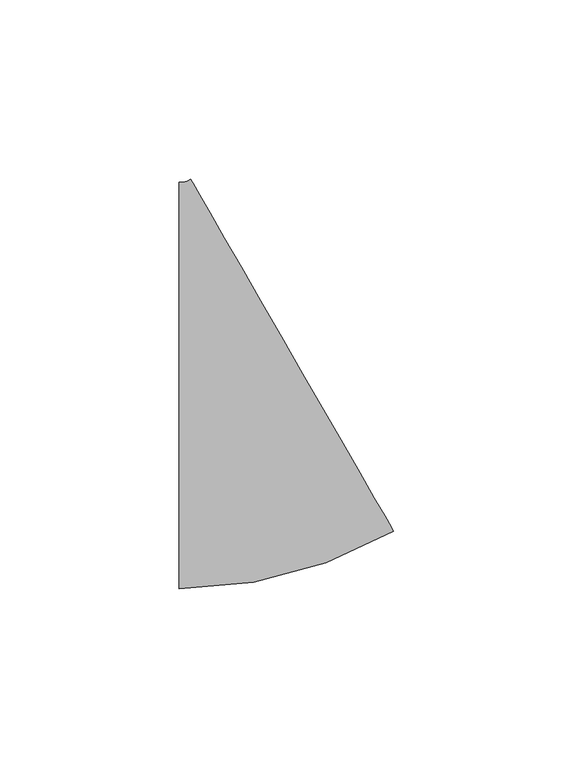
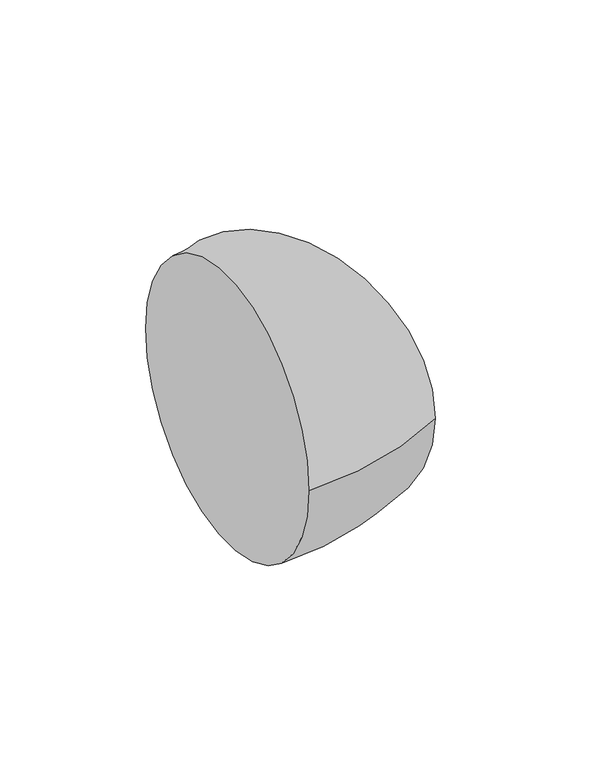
"""IFC4 building model written with IfcOpenShell, lengths in millimetres: pipe fitting geometry, M_Codo - Genérico : Estándar."""

import ifcopenshell
import ifcopenshell.guid

model = None  # the IFC model being written
_history = None  # IfcOwnerHistory: only IFC2X3 demands one
_inside = {}  # id of a spatial element -> (the spatial element, [elements in it])
_under = {}  # id of a project, library or spatial element -> (it, [spatial elements below it])
_declared = {}  # id of a project -> (the project, [libraries it declares])
_typed = {}  # id of a type object -> (the type object, [elements of that type])
_made_of = {}  # id of a material, layer set ... -> (it, [elements and type objects made of it])


def new_model(schema):
    """Start an empty IFC model of exactly this schema.

    Asked for "IFC4X3", IfcOpenShell would pick the latest addendum, in which some entities
    have other attributes; the version numbers below select the first issue.
    IFC2X3 requires an IfcOwnerHistory on every rooted entity: one is made here for all.
    """
    global model, _history
    if schema == "IFC4X3":
        model = ifcopenshell.file(schema_version=(4, 3, 0, 0))
    else:
        model = ifcopenshell.file(schema=schema)
    _inside.clear()
    _under.clear()
    _declared.clear()
    _typed.clear()
    _made_of.clear()
    _history = None
    if model.schema == "IFC2X3":
        org = make("IfcOrganization", Name="unknown")
        user = make(
            "IfcPersonAndOrganization",
            ThePerson=make("IfcPerson", FamilyName="unknown"),
            TheOrganization=org,
        )
        app = make(
            "IfcApplication",
            ApplicationDeveloper=org,
            Version="unknown",
            ApplicationFullName="unknown",
            ApplicationIdentifier="unknown",
        )
        _history = make(
            "IfcOwnerHistory",
            OwningUser=user,
            OwningApplication=app,
            ChangeAction="ADDED",
            CreationDate=0,
        )
    return model


def make(cls, **values):
    """One entity of the class cls with the attributes given. An attribute that is None is left unset."""
    return model.create_entity(
        cls, **{name: value for name, value in values.items() if value is not None}
    )


def rooted(cls, **values):
    """An entity with a GlobalId (a new one), such as an element, a storey or a relation."""
    return make(cls, GlobalId=ifcopenshell.guid.new(), OwnerHistory=_history, **values)


def si_unit(unit_type, name, prefix=None):
    """IfcSIUnit, for example si_unit("LENGTHUNIT", "METRE", prefix="MILLI")."""
    return make("IfcSIUnit", UnitType=unit_type, Prefix=prefix, Name=name)


def assignment(units):
    """IfcUnitAssignment: the units of a project."""
    return None if units is None else make("IfcUnitAssignment", Units=units)


def point(xyz):
    """IfcCartesianPoint."""
    return None if xyz is None else make("IfcCartesianPoint", Coordinates=xyz)


def direction(xyz):
    """IfcDirection."""
    return None if xyz is None else make("IfcDirection", DirectionRatios=xyz)


def frame(location, z_axis=None, x_axis=None):
    """IfcAxis2Placement3D, a coordinate frame: its origin and axes. An axis left out is left unset."""
    return make(
        "IfcAxis2Placement3D",
        Location=point(location),
        Axis=direction(z_axis),
        RefDirection=direction(x_axis),
    )


def origin():
    """The frame at (0, 0, 0) with its axes left unset."""
    return frame((0.0, 0.0, 0.0))


def place(relative_to, where):
    """IfcLocalPlacement: puts the frame where relative to a parent placement (None: the world)."""
    return make(
        "IfcLocalPlacement", PlacementRelTo=relative_to, RelativePlacement=where
    )


def context(
    kind, dimensions, precision=None, world=None, true_north=None, identifier=None
):
    """IfcGeometricRepresentationContext, for example the 3D "Model" context."""
    return make(
        "IfcGeometricRepresentationContext",
        ContextIdentifier=identifier,
        ContextType=kind,
        CoordinateSpaceDimension=dimensions,
        Precision=precision,
        WorldCoordinateSystem=world,
        TrueNorth=true_north,
    )


def project(units=None, contexts=None):
    """IfcProject with its units and contexts."""
    return rooted(
        "IfcProject",
        Name="project",
        RepresentationContexts=contexts,
        UnitsInContext=assignment(units),
    )


def spatial(cls, under=None, at=None, **own):
    """A site, building, storey or space (cls), placed at a placement, below another one or the project."""
    s = rooted(cls, ObjectPlacement=at, **own)
    if under is not None:
        _under.setdefault(under.id(), (under, []))[1].append(s)
    return s


def circle_curve(where, radius):
    """IfcCircle in the frame where."""
    return make("IfcCircle", Position=where, Radius=radius)


def ellipse_curve(where, semi_axis1, semi_axis2):
    """IfcEllipse in the frame where."""
    return make(
        "IfcEllipse", Position=where, SemiAxis1=semi_axis1, SemiAxis2=semi_axis2
    )


def trimmed(basis, trim1, trim2, sense, master):
    """IfcTrimmedCurve: the piece of a basis curve between two trims."""
    return make(
        "IfcTrimmedCurve",
        BasisCurve=basis,
        Trim1=trim1,
        Trim2=trim2,
        SenseAgreement=sense,
        MasterRepresentation=master,
    )


def shape(context_of_items, identifier, shape_type, items):
    """IfcShapeRepresentation: the items that make up one representation, for example the "Body"."""
    return make(
        "IfcShapeRepresentation",
        ContextOfItems=context_of_items,
        RepresentationIdentifier=identifier,
        RepresentationType=shape_type,
        Items=items,
    )


def source(mapping_origin, context_of_items, identifier, shape_type, items):
    """IfcRepresentationMap: a shape defined once, which mapped items show again and again."""
    return make(
        "IfcRepresentationMap",
        MappingOrigin=mapping_origin,
        MappedRepresentation=shape(context_of_items, identifier, shape_type, items),
    )


def transform(
    local_origin,
    x_axis=None,
    y_axis=None,
    z_axis=None,
    scale=None,
    scale2=None,
    scale3=None,
    uniform=True,
):
    """IfcCartesianTransformationOperator3D, or its non-uniform kind. x_axis, y_axis, z_axis: its Axis1, 2, 3."""
    if uniform:
        return make(
            "IfcCartesianTransformationOperator3D",
            Axis1=direction(x_axis),
            Axis2=direction(y_axis),
            LocalOrigin=point(local_origin),
            Scale=scale,
            Axis3=direction(z_axis),
        )
    return make(
        "IfcCartesianTransformationOperator3DnonUniform",
        Axis1=direction(x_axis),
        Axis2=direction(y_axis),
        LocalOrigin=point(local_origin),
        Scale=scale,
        Axis3=direction(z_axis),
        Scale2=scale2,
        Scale3=scale3,
    )


def mapped(mapping_source, mapping_target):
    """IfcMappedItem: shows the shape of a source again, moved by a transform."""
    return make(
        "IfcMappedItem", MappingSource=mapping_source, MappingTarget=mapping_target
    )


def made_of(thing, what):
    """Note that an element or type object is made of a material, layer set ...; save() writes the relation."""
    if what is not None:
        _made_of.setdefault(what.id(), (what, []))[1].append(thing)
    return thing


def element(
    cls,
    number,
    at=None,
    inside=None,
    cuts=None,
    type_object=None,
    material=None,
    context=None,
    identifier="Body",
    shape_type=None,
    held_by="IfcProductDefinitionShape",
    body=None,
    shapes=None,
    **own,
):
    """One element of the class cls, such as IfcWall. Its Tag is "e" and its number.

    at: its placement. inside: the storey or other place that contains it. cuts: it is an
    opening in that element (IfcRelVoidsElement). A single representation is given by context,
    identifier, shape_type and body (its items); several are given by shapes. held_by: the class
    of the entity that holds the representations. save() writes the other relations.
    """
    e = rooted(cls, Tag="e%d" % number, ObjectPlacement=at, **own)
    if body is not None:
        shapes = [shape(context, identifier, shape_type, body)]
    if shapes is not None:
        e.Representation = make(held_by, Representations=shapes)
    if inside is not None:
        _inside.setdefault(inside.id(), (inside, []))[1].append(e)
    if cuts is not None:
        rooted(
            "IfcRelVoidsElement", RelatingBuildingElement=cuts, RelatedOpeningElement=e
        )
    if type_object is not None:
        _typed.setdefault(type_object.id(), (type_object, []))[1].append(e)
    return made_of(e, material)


def aggregate(whole, parts):
    """IfcRelAggregates: a whole, such as a stair, and the parts it consists of."""
    return rooted("IfcRelAggregates", RelatingObject=whole, RelatedObjects=parts)


def save(model, path):
    """Write the relations noted so far, then the file.

    IfcRelAggregates (storeys below a building ...), IfcRelContainedInSpatialStructure (elements
    in a storey), IfcRelDefinesByType, IfcRelAssociatesMaterial and IfcRelDeclares: one each for
    every whole, place, type object, material and project.
    """
    for whole, parts in _under.values():
        aggregate(whole, parts)
    for where, things in _inside.values():
        rooted(
            "IfcRelContainedInSpatialStructure",
            RelatedElements=things,
            RelatingStructure=where,
        )
    for kind, things in _typed.values():
        rooted("IfcRelDefinesByType", RelatedObjects=things, RelatingType=kind)
    for what, things in _made_of.values():
        rooted("IfcRelAssociatesMaterial", RelatedObjects=things, RelatingMaterial=what)
    for by, libraries in _declared.values():
        rooted("IfcRelDeclares", RelatingContext=by, RelatedDefinitions=libraries)
    model.write(path)


def plane_surface(at):
    """IfcPlane: the flat surface through the origin of the frame at, square to its z axis."""
    return make("IfcPlane", Position=at)


def revolved_surface(curve, axis_point, axis_direction):
    """IfcSurfaceOfRevolution: the curve turned about the line through axis_point along axis_direction."""
    return make(
        "IfcSurfaceOfRevolution",
        SweptCurve=make("IfcArbitraryOpenProfileDef", ProfileType="CURVE", Curve=curve),
        AxisPosition=make("IfcAxis1Placement", Location=point(axis_point), Axis=direction(axis_direction)),
    )


def advanced_brep(points, edges, surfaces, faces):
    """IfcAdvancedBrep: a solid bounded by faces that lie on surfaces and meet in shared edges.

    An edge is (start, end): straight between two places in points (the first is 0);
    or (start, end, curve); or (start, end, curve, False) where it runs against its curve.
    A face is (place in surfaces, loops), or (place, loops, False) where it looks against
    its surface's normal. A loop lists edges by number (the first is 1), with a minus sign
    where the edge is run from its end to its start. The first loop is the outer one.
    """
    corners = [point(p) for p in points]
    vertices = [make("IfcVertexPoint", VertexGeometry=c) for c in corners]
    made = []
    for start, end, *more in edges:
        made.append(
            make(
                "IfcEdgeCurve",
                EdgeStart=vertices[start],
                EdgeEnd=vertices[end],
                EdgeGeometry=more[0] if more else make("IfcPolyline", Points=[corners[start], corners[end]]),
                SameSense=more[1] if len(more) > 1 else True,
            )
        )
    hull = []
    for where, loops, *sense in faces:
        bounds = []
        for j, loop in enumerate(loops):
            ring = [make("IfcOrientedEdge", EdgeElement=made[abs(k) - 1], Orientation=k > 0) for k in loop]
            bounds.append(
                make(
                    "IfcFaceOuterBound" if j == 0 else "IfcFaceBound",
                    Bound=make("IfcEdgeLoop", EdgeList=ring),
                    Orientation=True,
                )
            )
        hull.append(make("IfcAdvancedFace", Bounds=bounds, FaceSurface=surfaces[where], SameSense=sense[0] if sense else True))
    return make("IfcAdvancedBrep", Outer=make("IfcClosedShell", CfsFaces=hull))


def pipe_fitting_a384b232(model_context):
    return source(origin(), model_context, "Body", "AdvancedBrep", [
        advanced_brep(
        [(-16.8640523, -56.5875, 0.0), (-16.8640523, 56.5875, 0.0), (42.8984477, -40.5741864, 0.0), (-13.6890523, 57.4382387, 0.0)],
        [
            (0, 1, circle_curve(frame((-16.8640523, 0.0, 0.0), z_axis=(-1.0, 0.0, 0.0), x_axis=(0.0, 1.0, 0.0)), 56.5875)),
            (1, 0, circle_curve(frame((-16.8640523, 0.0, 0.0), z_axis=(-1.0, 0.0, 0.0), x_axis=(0.0, 1.0, 0.0)), 56.5875)),
            (2, 3, circle_curve(frame((14.6046977, 8.4320261, 0.0), z_axis=(0.8660254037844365, 0.5000000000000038, 0.0), x_axis=(-0.5000000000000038, 0.8660254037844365, 0.0)), 56.5875)),
            (3, 2, circle_curve(frame((14.6046977, 8.4320261, 0.0), z_axis=(0.8660254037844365, 0.5000000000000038, 0.0), x_axis=(-0.5000000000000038, 0.8660254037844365, 0.0)), 56.5875)),
            (3, 1, circle_curve(frame((-16.8640523, 62.9375, 0.0), z_axis=(0.0, 0.0, -1.0), x_axis=(0.0, -1.0, 0.0)), 6.35)),
            (0, 2, circle_curve(frame((-16.8640523, 62.9375, 0.0), z_axis=(0.0, 0.0, 1.0), x_axis=(0.0, -1.0, 0.0)), 119.525)),
        ],
        [
            plane_surface(frame((-16.8640523, 0.0, 0.0), z_axis=(-1.0, 0.0, 0.0), x_axis=(0.0, 0.0, 1.0))),
            plane_surface(frame((14.6046977, 8.4320261, 0.0), z_axis=(0.8660254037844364, 0.500000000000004, 0.0), x_axis=(0.0, 0.0, 1.0))),
            revolved_surface(trimmed(ellipse_curve(frame((-16.8640523, 0.0, 0.0), z_axis=(-1.0, 0.0, 0.0), x_axis=(0.0, 1.0, 0.0)), 56.5875, 56.5875), [point((-16.8640523, -56.5875, 0.0))], [point((-16.8640523, 56.5875, 0.0))], True, "CARTESIAN"), (-16.8640523, 62.9375, 0.0), (0.0, 0.0, 1.0)),
            revolved_surface(trimmed(ellipse_curve(frame((-16.8640523, 0.0, 0.0), z_axis=(-1.0, 0.0, 0.0), x_axis=(0.0, 1.0, 0.0)), 56.5875, 56.5875), [point((-16.8640523, 56.5875, 0.0))], [point((-16.8640523, -56.5875, 0.0))], True, "CARTESIAN"), (-16.8640523, 62.9375, 0.0), (0.0, 0.0, 1.0)),
        ],
        [
            (0, [[1, 2]]),
            (1, [[3, 4]]),
            (2, [[5, -1, 6, -4]]),
            (3, [[-6, -2, -5, -3]]),
        ],
    ),
    ])


if __name__ == "__main__":
    model = new_model("IFC4")
    model_context = context("Model", 3, world=origin())
    ifc_project = project(units=[si_unit("LENGTHUNIT", "METRE", prefix="MILLI")], contexts=[model_context])
    site = spatial("IfcSite", under=ifc_project)
    building = spatial("IfcBuilding", under=site)
    placement = place(None, origin())
    pipe_fitting_shape = pipe_fitting_a384b232(model_context)
    element("IfcPipeFitting", 1, ObjectType="M_Codo - Genérico : Estándar", at=placement, inside=building, context=model_context, shape_type="MappedRepresentation", body=[
        mapped(pipe_fitting_shape, transform((0.0, 0.0, 0.0), x_axis=(1.0, 0.0, 0.0), y_axis=(0.0, 1.0, 0.0), z_axis=(0.0, 0.0, 1.0))),
    ])
    save(model, "model.ifc")
